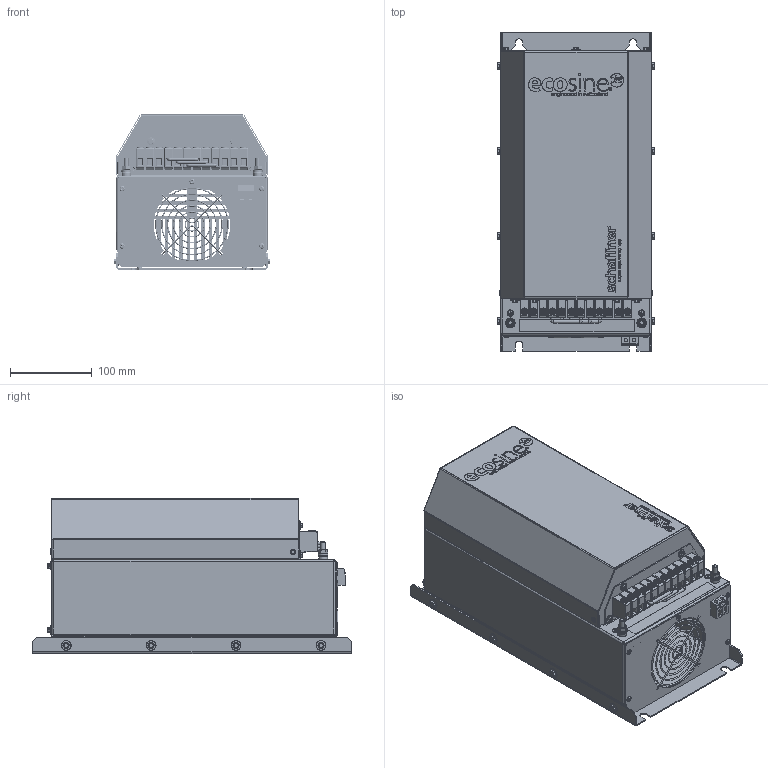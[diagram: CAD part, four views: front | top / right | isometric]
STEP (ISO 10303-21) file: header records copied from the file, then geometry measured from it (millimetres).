
FILE_DESCRIPTION(/* description */ (''),/* implementation_level */ '2;1');
FILE_NAME(/* name */ 'C:\Users\Erika.Jenzer\OneDrive - Schaffner EMV AG\Desktop\Plutus Customer STEP\CUSTOMER IP20 FS A.stp',/* time_stamp */ '2023-05-12T08:21:53+02:00',/* author */ ('erika.jenzer'),/* organization */ (''),/* preprocessor_version */ 'ST-DEVELOPER v18.1',/* originating_system */ 'Autodesk Inventor 2020',/* authorisation */ '');
FILE_SCHEMA (('AUTOMOTIVE_DESIGN { 1 0 10303 214 3 1 1 }'));
Products named in the file (1): CUSTOMER IP20 FS A
Bounding box: 192.14 x 390 x 190.05 mm (x, y, z)
Volume: 1184848.9 mm3; surface area: 816992.9 mm2
Topology: 12 solids, 12 shells, 4967 faces, 13126 edges, 8342 vertices
Faces by surface type: plane 2984, cylinder 1076, bspline 460, cone 227, torus 148, sphere 72
Full cylindrical faces by diameter (mm): 0.01 x7, 1.6 x12, 2 x5, 2.7 x3, 2.8 x2, 3.2 x4, 3.3 x4, 3.4 x5, 3.5 x3, 3.67 x6, 4 x33, 4.1 x3, 4.3 x4, 4.5 x16, 5 x16, 5.2 x5, 5.5 x16, 6 x14, 6.4 x2, 6.5 x9, 6.6 x4, 7 x4, 7.475 x8, 8 x11, 8.4 x3, 8.5 x14, 8.7 x6, 8.88 x2, 9 x4, 9.9 x2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
Entity records: 198931 total; most frequent: CARTESIAN_POINT 73235, ORIENTED_EDGE 26204, DIRECTION 24583, EDGE_CURVE 13102, VERTEX_POINT 8406, LINE 8313, VECTOR 8313, AXIS2_PLACEMENT_3D 8135
